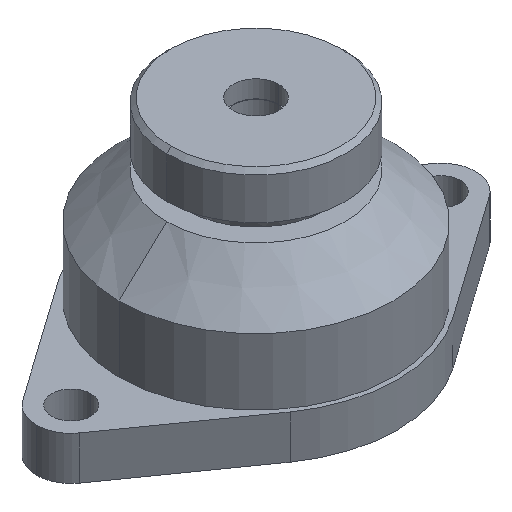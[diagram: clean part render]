
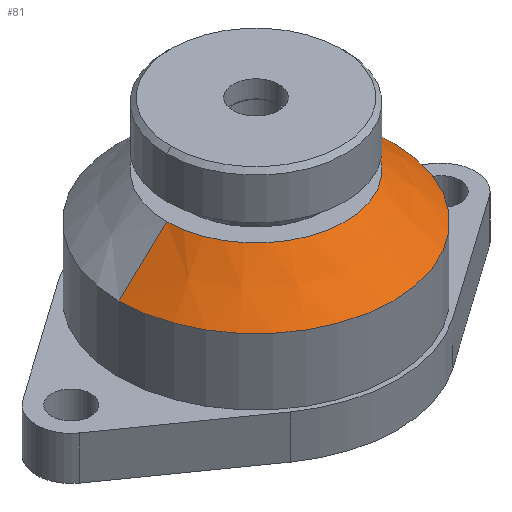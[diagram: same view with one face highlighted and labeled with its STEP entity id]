
A CAD part, isometric view. The second image highlights one B-rep face of the part: STEP entity #81.
In plain terms, the highlighted conical face has half-angle 46.887 degrees and reference radius 26 mm.
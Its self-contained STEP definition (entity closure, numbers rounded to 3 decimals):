
#81=ADVANCED_FACE('',(#184),#185,.T.);
#184=FACE_OUTER_BOUND('',#324,.T.);
#185=CONICAL_SURFACE('',#325,26.0,0.818);
#324=EDGE_LOOP('',(#649,#650,#651,#652));
#325=AXIS2_PLACEMENT_3D('',#653,#654,#655);
#649=ORIENTED_EDGE('',*,*,#918,.T.);
#650=ORIENTED_EDGE('',*,*,#937,.F.);
#651=ORIENTED_EDGE('',*,*,#919,.T.);
#652=ORIENTED_EDGE('',*,*,#968,.T.);
#653=CARTESIAN_POINT('',(0.,0.0,30.351));
#654=DIRECTION('',(0.,0.,-1.0));
#655=DIRECTION('',(1.0,0.,0.));
#918=EDGE_CURVE('',#1067,#1116,#1117,.T.);
#919=EDGE_CURVE('',#1118,#1071,#1119,.T.);
#937=EDGE_CURVE('',#1118,#1116,#1153,.T.);
#968=EDGE_CURVE('',#1071,#1067,#1196,.T.);
#1067=VERTEX_POINT('',#1311);
#1071=VERTEX_POINT('',#1316);
#1116=VERTEX_POINT('',#1372);
#1117=LINE('',#1373,#1374);
#1118=VERTEX_POINT('',#1375);
#1119=LINE('',#1376,#1377);
#1153=CIRCLE('',#1419,20.5);
#1196=CIRCLE('',#1476,31.5);
#1311=CARTESIAN_POINT('',(31.5,0.,25.202));
#1316=CARTESIAN_POINT('',(-31.5,0.,25.202));
#1372=CARTESIAN_POINT('',(20.5,0.,35.5));
#1373=CARTESIAN_POINT('',(26.,0.,30.351));
#1374=VECTOR('',#1639,1.0);
#1375=CARTESIAN_POINT('',(-20.5,0.,35.5));
#1376=CARTESIAN_POINT('',(-26.,0.,30.351));
#1377=VECTOR('',#1640,1.0);
#1419=AXIS2_PLACEMENT_3D('',#1676,#1677,#1678);
#1476=AXIS2_PLACEMENT_3D('',#1741,#1742,#1743);
#1639=DIRECTION('',(-0.73,0.,0.683));
#1640=DIRECTION('',(-0.73,0.,-0.683));
#1676=CARTESIAN_POINT('',(0.,0.0,35.5));
#1677=DIRECTION('',(0.,0.,1.0));
#1678=DIRECTION('',(1.0,0.,0.));
#1741=CARTESIAN_POINT('',(0.,0.0,25.202));
#1742=DIRECTION('',(0.,0.,1.0));
#1743=DIRECTION('',(1.0,0.,0.));
